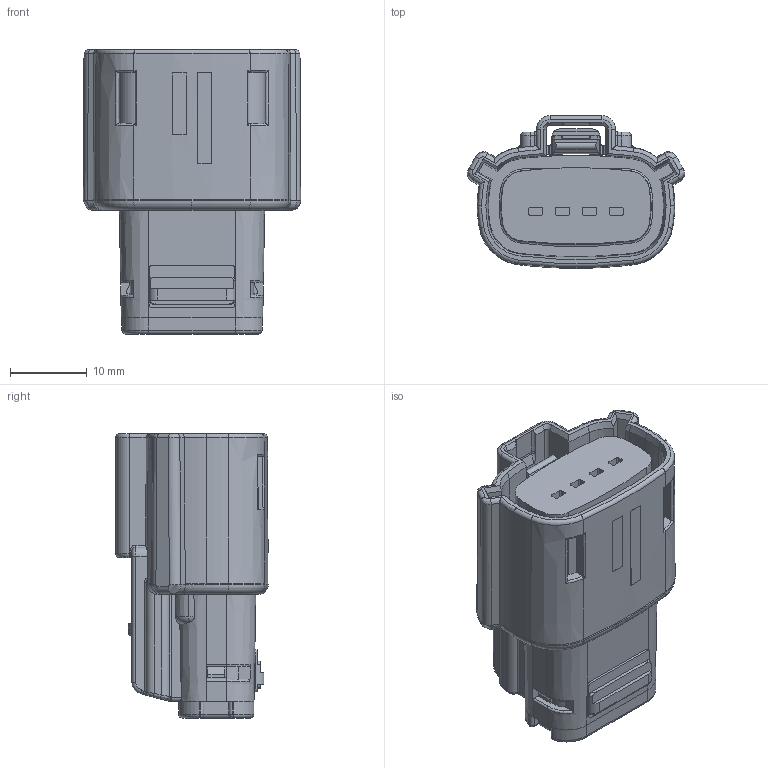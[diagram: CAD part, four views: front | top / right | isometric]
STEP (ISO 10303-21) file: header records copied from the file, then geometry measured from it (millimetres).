
FILE_DESCRIPTION((''),'2;1');
FILE_NAME('334710401','2019-11-22T',('gga'),(''),'PRO/ENGINEER BY PARAMETRIC TECHNOLOGY CORPORATION, 2016010','PRO/ENGINEER BY PARAMETRIC TECHNOLOGY CORPORATION, 2016010','');
FILE_SCHEMA(('CONFIG_CONTROL_DESIGN'));
Length unit declared in the file: millimetre
Products named in the file (1): 334710401
Bounding box: 28.22 x 19.8 x 37 mm (x, y, z)
Volume: 9026.5 mm3; surface area: 7080.4 mm2
Topology: 1 solids, 1 shells, 762 faces, 2070 edges, 1292 vertices
Faces by surface type: plane 303, cylinder 236, torus 89, cone 78, bspline 49, sphere 7
Entity records: 30969 total; most frequent: CARTESIAN_POINT 12309, ORIENTED_EDGE 4118, DIRECTION 3666, EDGE_CURVE 2059, AXIS2_PLACEMENT_3D 1310, VERTEX_POINT 1292, VECTOR 1046, LINE 1046
